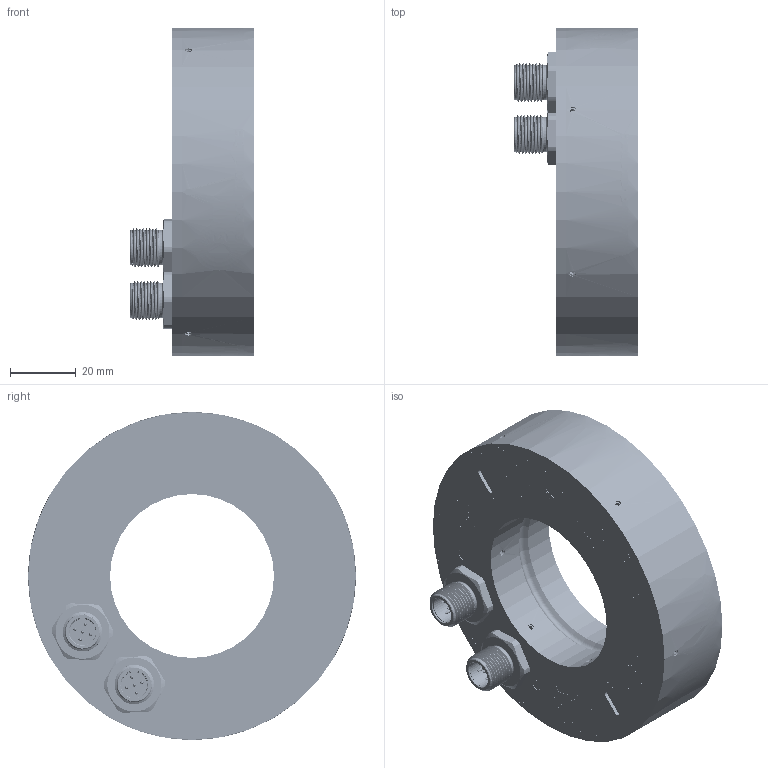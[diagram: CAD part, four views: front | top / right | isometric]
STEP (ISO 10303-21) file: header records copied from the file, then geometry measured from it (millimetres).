
FILE_DESCRIPTION (( 'STEP AP203' ), '1' );
FILE_NAME ('K0E012330_IC-BASE F100_50_zum_Versenden.STEP', '2023-12-22T06:47:16', ( '' ), ( '' ), 'SwSTEP 2.0', 'SolidWorks 2023', '' );
FILE_SCHEMA (( 'CONFIG_CONTROL_DESIGN' ));
Length unit declared in the file: millimetre
Products named in the file (1): K0E012330_IC-BASE F100_50_zum_Versenden
Bounding box: 37.9 x 100 x 100 mm (x, y, z)
Surface area: 64437.2 mm2 (no closed solid volume)
Topology: 0 solids, 67 shells, 5785 faces, 16151 edges, 11016 vertices
Faces by surface type: plane 3125, bspline 1968, cylinder 452, cone 164, torus 76
Entity records: 297286 total; most frequent: CARTESIAN_POINT 161870, ORIENTED_EDGE 31726, DIRECTION 20485, EDGE_CURVE 16143, VERTEX_POINT 11016, LINE 10107, VECTOR 10107, EDGE_LOOP 6485
